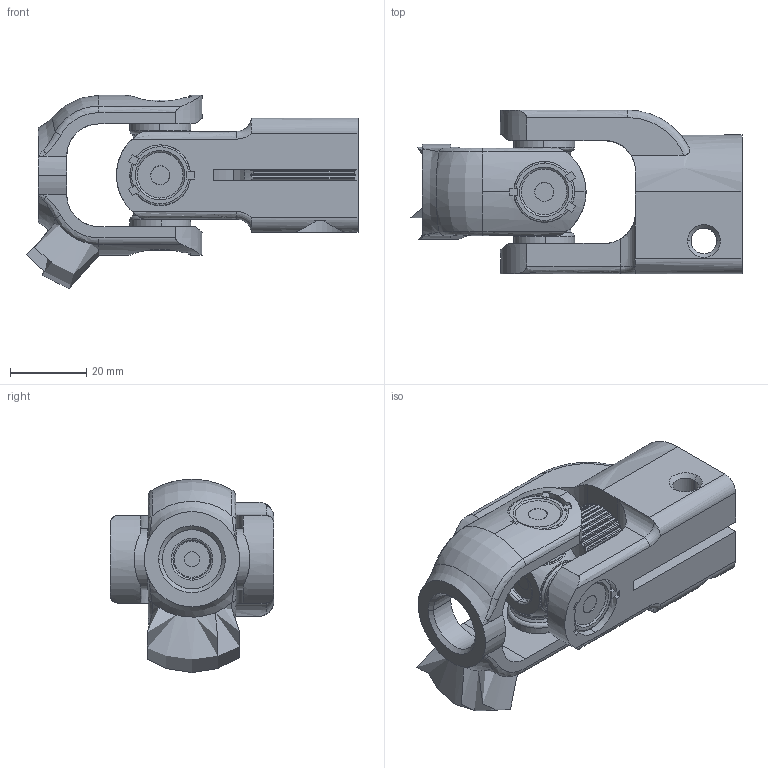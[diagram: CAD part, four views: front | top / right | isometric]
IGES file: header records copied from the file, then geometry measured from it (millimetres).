
Start section: START RECORD GO HERE.
Global section: file name: ZU10_UNIVERSAL JOINT 40T.igs; native system: DASSAULT SYSTEMES CATIA Version 5-6 Release 2017 - www.3ds.com; preprocessor: V5-6R2017_5.27.0.0.10-19-2016.20.00; author: kani; organization: ARJ-D3; date: 20211129.222255; units: millimetre
Bounding box: 87.28 x 43 x 50.8 mm (x, y, z)
Volume: 55878.3 mm3; surface area: 30519.2 mm2
Topology: 83 solids, 83 shells, 1278 faces, 2789 edges, 2044 vertices
Faces by surface type: revolution 907, plane 363, bspline 8
